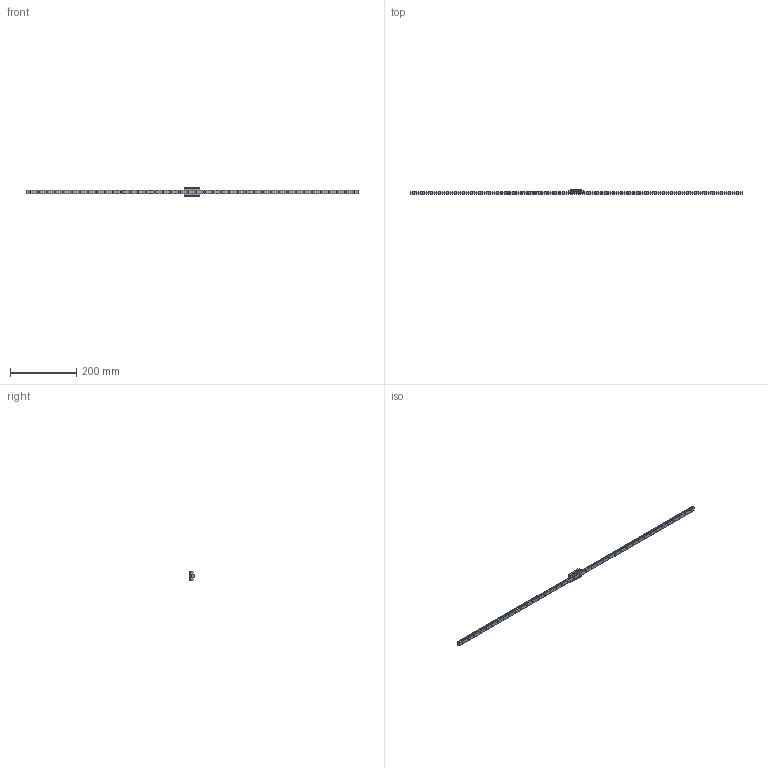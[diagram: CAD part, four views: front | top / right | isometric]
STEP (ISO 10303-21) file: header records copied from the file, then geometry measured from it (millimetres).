
FILE_DESCRIPTION( ( '' ), '1' );
FILE_NAME( 'C:/Users/v3-771-32344/Documents/Website 2016/STEP/SRS12N1UU100012.50476.45000.stp', '2016-11-10T13:09:57', ( '' ), ( '' ), ' ', ' ', ' ' );
FILE_SCHEMA( ( 'CONFIG_CONTROL_DESIGN' ) );
Length unit declared in the file: millimetre
Products named in the file (2): 1; 2
Bounding box: 1000 x 13 x 27 mm (x, y, z)
Volume: 90877.6 mm3; surface area: 47922.6 mm2
Topology: 2 solids, 2 shells, 316 faces, 782 edges, 508 vertices
Faces by surface type: cylinder 190, plane 110, cone 16
Entity records: 9702 total; most frequent: DIRECTION 1798, CARTESIAN_POINT 1600, ORIENTED_EDGE 1548, EDGE_CURVE 774, AXIS2_PLACEMENT_3D 706, VERTEX_POINT 508, EDGE_LOOP 442, LINE 386
